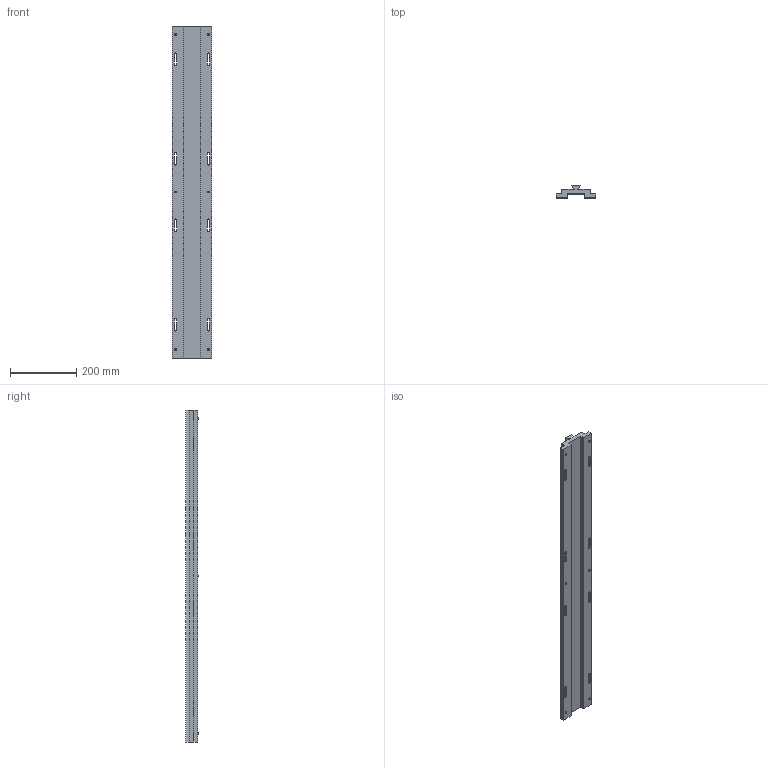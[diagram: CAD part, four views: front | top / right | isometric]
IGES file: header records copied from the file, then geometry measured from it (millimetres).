
Start section:  PTC IGES file: EOB02.igs
Global section: file name: EOB02.igs; native system: Pro/ENGINEER by Parametric Technology Corporation; preprocessor: 2006460; author: Owner; organization: Unknown; date: 20141216.114733; units: millimetre
Bounding box: 120 x 38.21 x 1000 mm (x, y, z)
Surface area: 368298.4 mm2 (no closed solid volume)
Topology: 0 solids, 0 shells, 130 faces, 876 edges, 984 vertices
Faces by surface type: revolution 68, bspline 62
